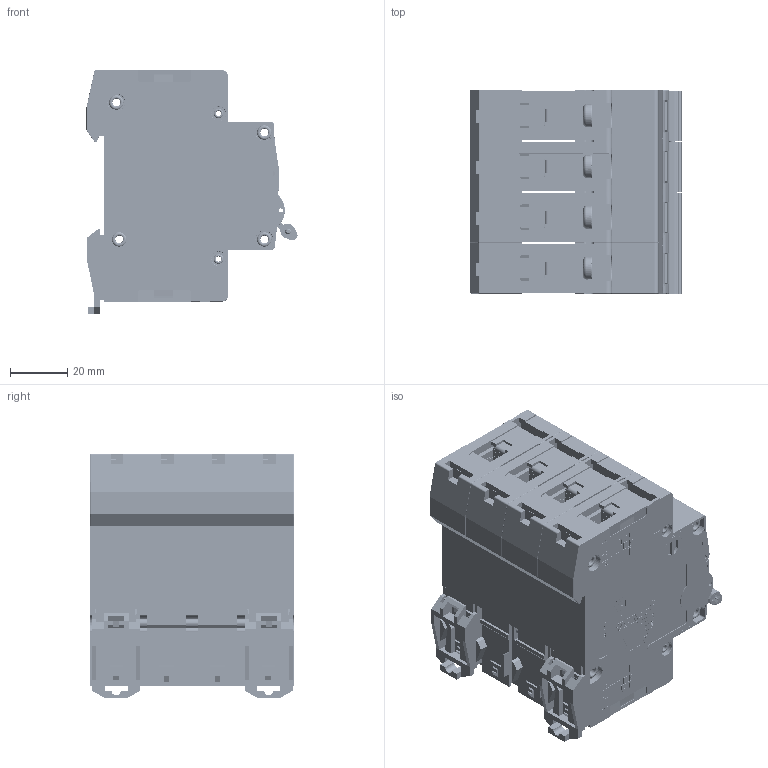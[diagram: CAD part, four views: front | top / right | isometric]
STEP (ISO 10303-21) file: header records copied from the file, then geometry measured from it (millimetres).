
FILE_DESCRIPTION (( 'STEP AP214' ), '1' );
FILE_NAME ('TDZ-4D-10.STEP', '2026-04-30T13:23:36', ( '' ), ( '' ), 'SwSTEP 2.0', 'SolidWorks 2025', '' );
FILE_SCHEMA (( 'AUTOMOTIVE_DESIGN' ));
Length unit declared in the file: millimetre
Products named in the file (1): TDZ-4D-10
Bounding box: 73.85 x 71.2 x 85.3 mm (x, y, z)
Volume: 118554.1 mm3; surface area: 187896.2 mm2
Topology: 56 solids, 56 shells, 15655 faces, 44142 edges, 29290 vertices
Faces by surface type: plane 9849, cylinder 3614, bspline 1650, torus 356, cone 186
Entity records: 791656 total; most frequent: CARTESIAN_POINT 230830, ORIENTED_EDGE 88188, DIRECTION 73912, EDGE_CURVE 44094, VECTOR 31026, LINE 31026, VERTEX_POINT 29290, AXIS2_PLACEMENT_3D 21443
